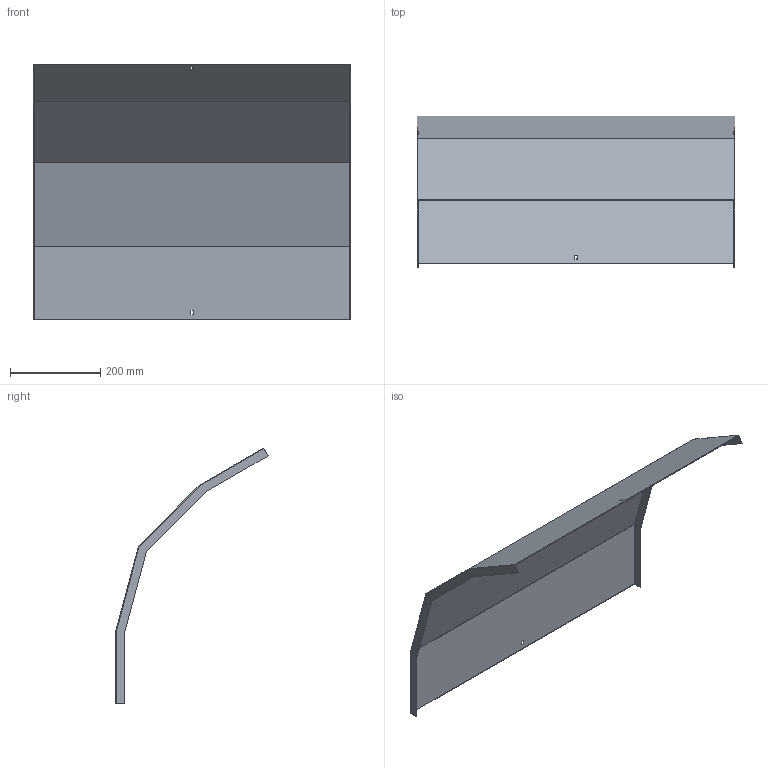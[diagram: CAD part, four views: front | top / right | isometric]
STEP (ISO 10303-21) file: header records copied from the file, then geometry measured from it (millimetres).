
FILE_DESCRIPTION (( 'STEP AP214' ), '1' );
FILE_NAME ('A2_41N3C700.step', '2025-02-21T10:39:29', ( '' ), ( '' ), 'SwSTEP 2.0', 'SolidWorks 2023', '' );
FILE_SCHEMA (( 'AUTOMOTIVE_DESIGN' ));
Length unit declared in the file: millimetre
Products named in the file (1): A2_41N3C700
Bounding box: 703 x 337.26 x 566.83 mm (x, y, z)
Volume: 787838 mm3; surface area: 1054836 mm2
Topology: 1 solids, 1 shells, 30 faces, 84 edges, 56 vertices
Faces by surface type: plane 30
Entity records: 979 total; most frequent: CARTESIAN_POINT 171, ORIENTED_EDGE 168, DIRECTION 146, LINE 84, EDGE_CURVE 84, VECTOR 84, VERTEX_POINT 56, EDGE_LOOP 34
